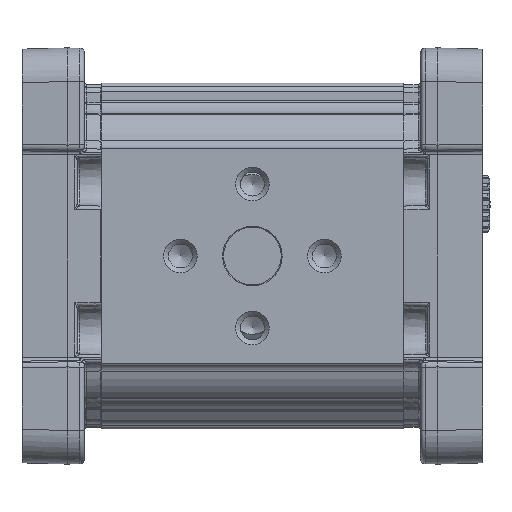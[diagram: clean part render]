
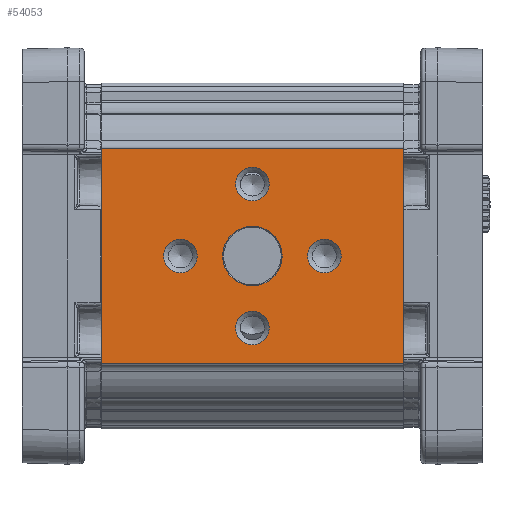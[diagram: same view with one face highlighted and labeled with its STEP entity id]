
A CAD part, left-side view. The second image highlights one B-rep face of the part: STEP entity #54053.
In plain terms, the highlighted planar face has unit normal (-1, 0, 0).
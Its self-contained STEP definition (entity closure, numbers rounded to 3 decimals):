
#3024=LINE('',#88563,#4682);
#3034=LINE('',#88664,#4692);
#3053=LINE('',#88712,#4711);
#3054=LINE('',#88714,#4712);
#4682=VECTOR('',#65647,1000.);
#4692=VECTOR('',#65739,1000.);
#4711=VECTOR('',#65794,1000.);
#4712=VECTOR('',#65797,1000.);
#12632=ORIENTED_EDGE('',*,*,#21276,.T.);
#12633=ORIENTED_EDGE('',*,*,#21277,.T.);
#12634=ORIENTED_EDGE('',*,*,#21278,.T.);
#12635=ORIENTED_EDGE('',*,*,#21279,.T.);
#12636=ORIENTED_EDGE('',*,*,#21280,.T.);
#12637=ORIENTED_EDGE('',*,*,#21256,.T.);
#12638=ORIENTED_EDGE('',*,*,#21228,.T.);
#12639=ORIENTED_EDGE('',*,*,#21257,.T.);
#12640=ORIENTED_EDGE('',*,*,#21178,.F.);
#21178=EDGE_CURVE('',#25849,#25850,#3024,.T.);
#21228=EDGE_CURVE('',#25900,#25899,#3034,.T.);
#21256=EDGE_CURVE('',#25849,#25900,#3053,.T.);
#21257=EDGE_CURVE('',#25899,#25850,#3054,.F.);
#21276=EDGE_CURVE('',#25919,#25919,#28921,.F.);
#21277=EDGE_CURVE('',#25920,#25920,#28922,.F.);
#21278=EDGE_CURVE('',#25921,#25921,#28923,.F.);
#21279=EDGE_CURVE('',#25922,#25922,#28924,.F.);
#21280=EDGE_CURVE('',#25923,#25923,#28925,.F.);
#25849=VERTEX_POINT('',#88562);
#25850=VERTEX_POINT('',#88564);
#25899=VERTEX_POINT('',#88663);
#25900=VERTEX_POINT('',#88665);
#25919=VERTEX_POINT('',#88837);
#25920=VERTEX_POINT('',#88839);
#25921=VERTEX_POINT('',#88841);
#25922=VERTEX_POINT('',#88843);
#25923=VERTEX_POINT('',#88845);
#28921=CIRCLE('',#57724,3.5);
#28922=CIRCLE('',#57725,3.5);
#28923=CIRCLE('',#57726,3.5);
#28924=CIRCLE('',#57727,3.5);
#28925=CIRCLE('',#57728,6.2);
#31508=EDGE_LOOP('',(#12632));
#31509=EDGE_LOOP('',(#12633));
#31510=EDGE_LOOP('',(#12634));
#31511=EDGE_LOOP('',(#12635));
#31512=EDGE_LOOP('',(#12636));
#31513=EDGE_LOOP('',(#12637,#12638,#12639,#12640));
#34329=FACE_BOUND('',#31508,.T.);
#34330=FACE_BOUND('',#31509,.T.);
#34331=FACE_BOUND('',#31510,.T.);
#34332=FACE_BOUND('',#31511,.T.);
#34333=FACE_BOUND('',#31512,.T.);
#34334=FACE_BOUND('',#31513,.T.);
#36014=PLANE('',#57723);
#54053=ADVANCED_FACE('',(#34329,#34330,#34331,#34332,#34333,#34334),#36014,
 .T.);
#57723=AXIS2_PLACEMENT_3D('',#88835,#65840,#65841);
#57724=AXIS2_PLACEMENT_3D('',#88836,#65842,#65843);
#57725=AXIS2_PLACEMENT_3D('',#88838,#65844,#65845);
#57726=AXIS2_PLACEMENT_3D('',#88840,#65846,#65847);
#57727=AXIS2_PLACEMENT_3D('',#88842,#65848,#65849);
#57728=AXIS2_PLACEMENT_3D('',#88844,#65850,#65851);
#65647=DIRECTION('',(0.,0.,1.));
#65739=DIRECTION('',(0.,0.,1.));
#65794=DIRECTION('',(0.,-1.,0.));
#65797=DIRECTION('',(0.,-1.,0.));
#65840=DIRECTION('',(-1.,0.,0.));
#65841=DIRECTION('',(0.,0.,1.));
#65842=DIRECTION('',(-1.,0.,0.));
#65843=DIRECTION('',(0.,0.,1.));
#65844=DIRECTION('',(-1.,0.,0.));
#65845=DIRECTION('',(0.,0.,1.));
#65846=DIRECTION('',(-1.,0.,0.));
#65847=DIRECTION('',(0.,0.,1.));
#65848=DIRECTION('',(-1.,0.,0.));
#65849=DIRECTION('',(0.,0.,1.));
#65850=DIRECTION('',(-1.,0.,0.));
#65851=DIRECTION('',(0.,0.,1.));
#88562=CARTESIAN_POINT('',(-33.,63.,-22.5));
#88563=CARTESIAN_POINT('',(-33.,63.,-21.711));
#88564=CARTESIAN_POINT('',(-33.,63.,22.5));
#88663=CARTESIAN_POINT('',(-33.,0.,22.5));
#88664=CARTESIAN_POINT('',(-33.,0.,-21.711));
#88665=CARTESIAN_POINT('',(-33.,0.,-22.5));
#88712=CARTESIAN_POINT('',(-33.,63.,-22.5));
#88714=CARTESIAN_POINT('',(-33.,63.,22.5));
#88835=CARTESIAN_POINT('',(-33.,133.537,48.138));
#88836=CARTESIAN_POINT('',(-33.,31.5,-15.));
#88837=CARTESIAN_POINT('',(-33.,31.5,-11.5));
#88838=CARTESIAN_POINT('',(-33.,16.5,0.));
#88839=CARTESIAN_POINT('',(-33.,16.5,3.5));
#88840=CARTESIAN_POINT('',(-33.,31.5,15.));
#88841=CARTESIAN_POINT('',(-33.,31.5,18.5));
#88842=CARTESIAN_POINT('',(-33.,46.5,0.));
#88843=CARTESIAN_POINT('',(-33.,46.5,3.5));
#88844=CARTESIAN_POINT('',(-33.,31.5,0.));
#88845=CARTESIAN_POINT('',(-33.,31.5,6.2));
